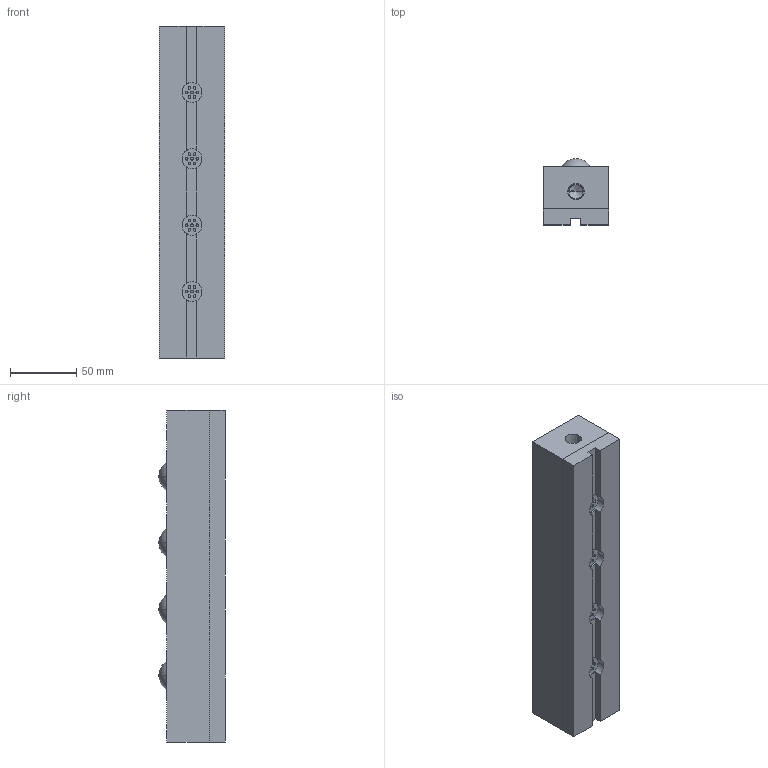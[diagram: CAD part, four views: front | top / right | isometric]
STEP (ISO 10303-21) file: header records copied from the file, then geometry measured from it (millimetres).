
FILE_DESCRIPTION (( 'STEP AP203' ), '1' );
FILE_NAME ('PVL55SH-4.STEP', '2016-01-25T01:06:59', ( '' ), ( '' ), 'SwSTEP 2.0', 'SolidWorks 2013', '' );
FILE_SCHEMA (( 'CONFIG_CONTROL_DESIGN' ));
Length unit declared in the file: millimetre
Products named in the file (1): PVL55SH-4
Bounding box: 49 x 50 x 250 mm (x, y, z)
Volume: 523756.1 mm3; surface area: 89570.1 mm2
Topology: 2 solids, 2 shells, 207 faces, 452 edges, 301 vertices
Faces by surface type: cylinder 114, plane 81, sphere 8, cone 4
Entity records: 5883 total; most frequent: DIRECTION 1130, CARTESIAN_POINT 959, ORIENTED_EDGE 900, AXIS2_PLACEMENT_3D 472, EDGE_CURVE 450, VERTEX_POINT 301, EDGE_LOOP 269, CIRCLE 264
